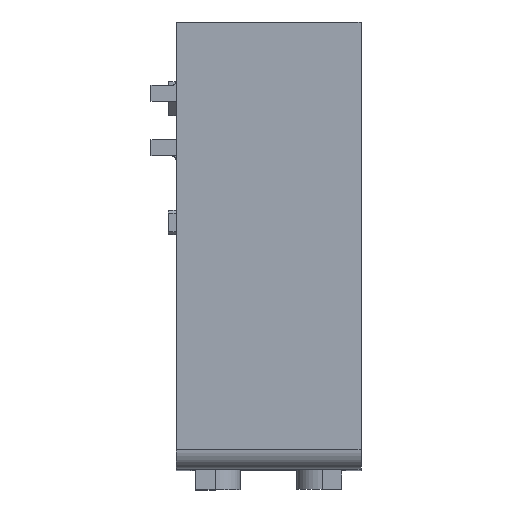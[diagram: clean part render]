
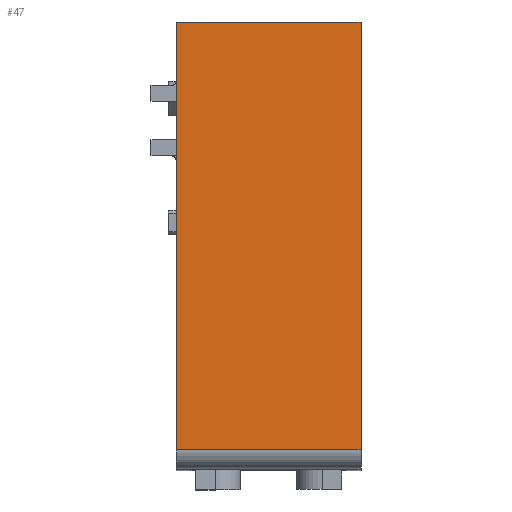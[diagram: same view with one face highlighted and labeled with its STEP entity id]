
A CAD part, top view. The second image highlights one B-rep face of the part: STEP entity #47.
In plain terms, the highlighted planar face has unit normal (0, 0, 1).
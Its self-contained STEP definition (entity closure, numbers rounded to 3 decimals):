
#47=ADVANCED_FACE('',(#373),#372,.F.);
#372=PLANE('',#2808);
#373=FACE_OUTER_BOUND('',#2809,.T.);
#2805=CARTESIAN_POINT('',(10.4,-53.4,62.2));
#2806=DIRECTION('',(0.,0.,-1.));
#2807=DIRECTION('',(-1.,0.,0.));
#2808=AXIS2_PLACEMENT_3D('',#2805,#2806,#2807);
#2809=EDGE_LOOP('',(#4154,#4155,#4156,#4157));
#4154=ORIENTED_EDGE('',*,*,#5461,.T.);
#4155=ORIENTED_EDGE('',*,*,#5515,.F.);
#4156=ORIENTED_EDGE('',*,*,#5394,.F.);
#4157=ORIENTED_EDGE('',*,*,#5514,.T.);
#5394=EDGE_CURVE('',#6149,#6150,#6151,.T.);
#5461=EDGE_CURVE('',#6619,#6612,#6620,.T.);
#5514=EDGE_CURVE('',#6149,#6619,#6985,.T.);
#5515=EDGE_CURVE('',#6150,#6612,#6991,.T.);
#6149=VERTEX_POINT('',#10729);
#6150=VERTEX_POINT('',#10730);
#6151=LINE('',#10731,#10732);
#6612=VERTEX_POINT('',#11000);
#6619=VERTEX_POINT('',#11005);
#6620=LINE('',#11006,#11007);
#6985=LINE('',#11212,#11213);
#6991=LINE('',#11215,#11216);
#10729=CARTESIAN_POINT('',(8.5,-5.,62.2));
#10730=CARTESIAN_POINT('',(8.5,-49.,62.2));
#10731=CARTESIAN_POINT('',(8.5,-5.,62.2));
#10732=VECTOR('',#10733,44.);
#10733=DIRECTION('',(0.,-1.,0.));
#11000=CARTESIAN_POINT('',(-10.5,-49.,62.2));
#11005=CARTESIAN_POINT('',(-10.5,-5.,62.2));
#11006=CARTESIAN_POINT('',(-10.5,-5.,62.2));
#11007=VECTOR('',#11008,44.);
#11008=DIRECTION('',(0.,-1.,0.));
#11212=CARTESIAN_POINT('',(8.5,-5.,62.2));
#11213=VECTOR('',#11214,19.);
#11214=DIRECTION('',(-1.,0.,0.));
#11215=CARTESIAN_POINT('',(8.5,-49.,62.2));
#11216=VECTOR('',#11217,19.);
#11217=DIRECTION('',(-1.,0.,0.));
